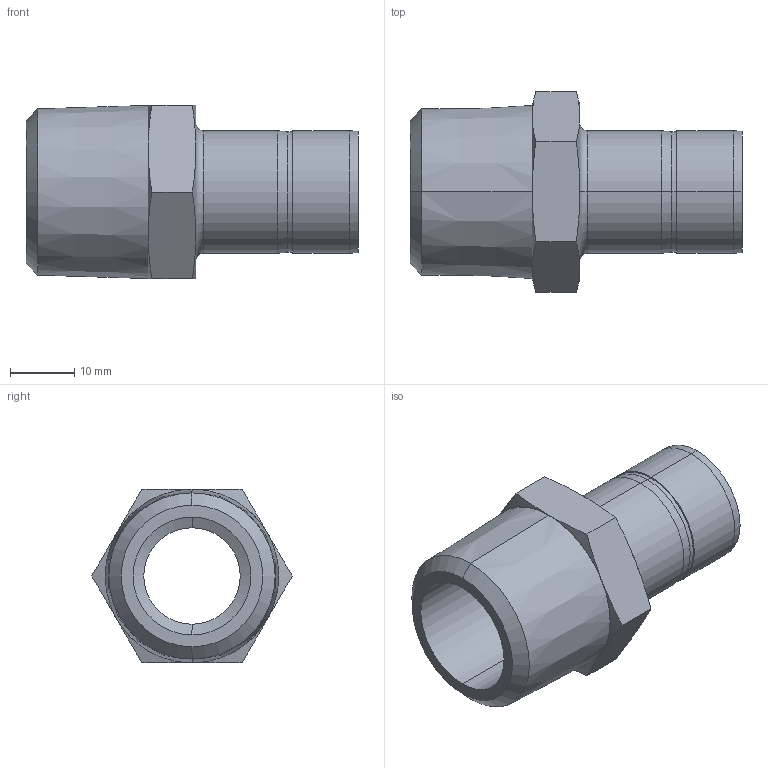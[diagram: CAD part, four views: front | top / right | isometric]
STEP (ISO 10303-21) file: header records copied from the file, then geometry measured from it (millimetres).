
FILE_DESCRIPTION (( 'STEP AP203' ), '1' );
FILE_NAME ('DHA12-12 SS.STEP', '2009-09-08T06:15:13', ( ' ' ), ( '' ), 'SwSTEP 2.0', 'SolidWorks 2008', '' );
FILE_SCHEMA (( 'CONFIG_CONTROL_DESIGN' ));
Length unit declared in the file: millimetre
Products named in the file (1): DHA12-12 SS
Bounding box: 51.6 x 31.17 x 26.99 mm (x, y, z)
Volume: 11163.9 mm3; surface area: 7093.5 mm2
Topology: 1 solids, 1 shells, 46 faces, 96 edges, 54 vertices
Faces by surface type: cone 24, cylinder 10, plane 10, torus 2
Entity records: 1357 total; most frequent: CARTESIAN_POINT 317, DIRECTION 210, ORIENTED_EDGE 192, EDGE_CURVE 96, AXIS2_PLACEMENT_3D 91, VERTEX_POINT 54, EDGE_LOOP 50, ADVANCED_FACE 46
